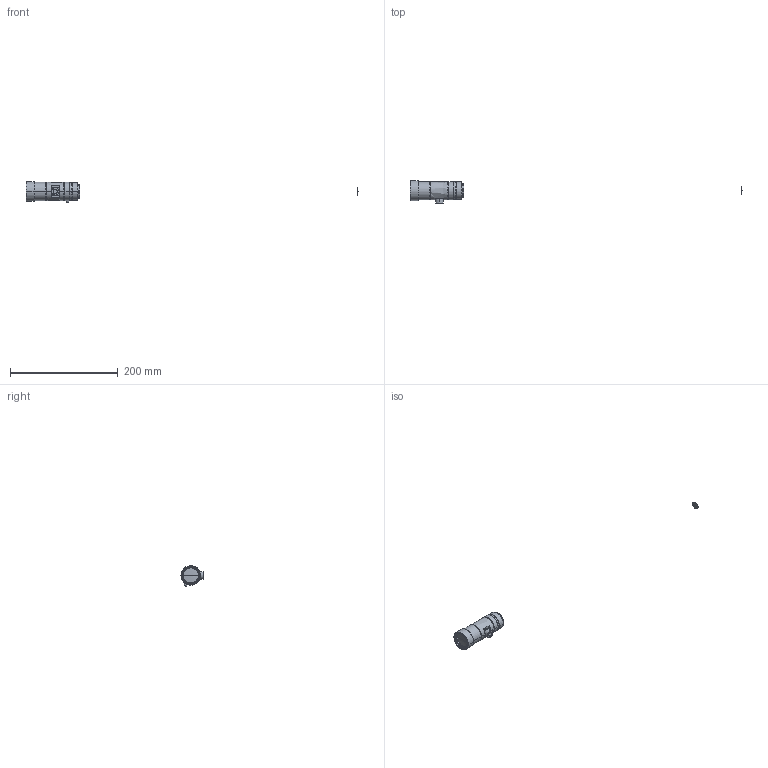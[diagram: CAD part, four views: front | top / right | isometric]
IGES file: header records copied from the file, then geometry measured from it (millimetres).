
Start section: SolidWorks IGES file using analytic representation for surfaces
Global section: file name: C:\Users\tsuji_vst\Documents\【図面】\_3D\00 VST\VS-TCT\TCT08-65\VS-TCT08-65CO.IGS; native system: SolidWorks 2016; preprocessor: SolidWorks 2016; author: tsuji_vst; date: 160830.161456; units: millimetre
Bounding box: 616.26 x 41.25 x 38.52 mm (x, y, z)
Surface area: 16289.8 mm2 (no closed solid volume)
Topology: 0 solids, 0 shells, 145 faces, 2374 edges, 2373 vertices
Faces by surface type: revolution 116, bspline 29
